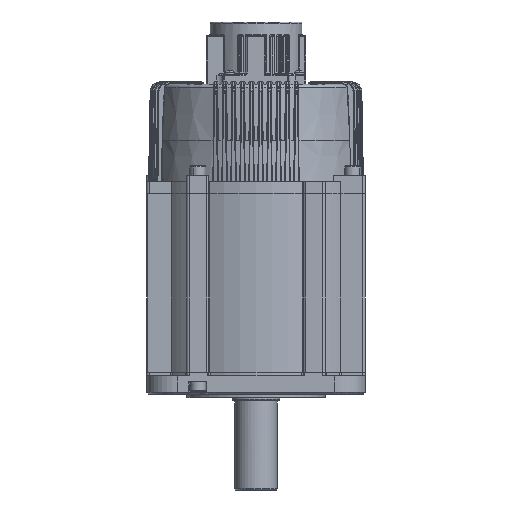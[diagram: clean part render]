
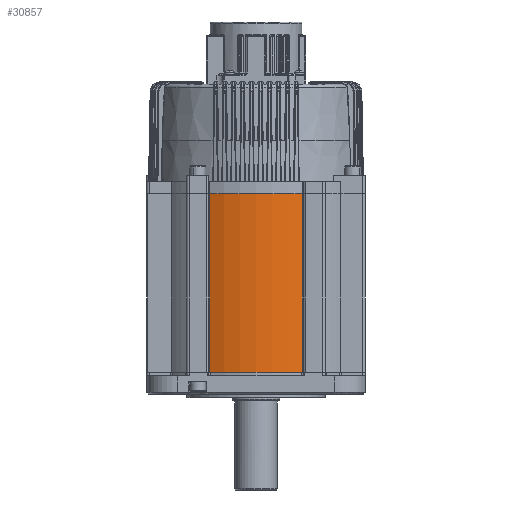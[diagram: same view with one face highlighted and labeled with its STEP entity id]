
A CAD part, front view. The second image highlights one B-rep face of the part: STEP entity #30857.
In plain terms, the highlighted cylindrical face has radius 90 mm (diameter 180 mm), a partial arc.
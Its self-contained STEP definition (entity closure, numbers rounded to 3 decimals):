
#3775 = LINE ( 'NONE', #11864, #100350 ) ;
#5246 = CIRCLE ( 'NONE', #80627, 90. ) ;
#7867 = CARTESIAN_POINT ( 'NONE',  ( 38.287, -81.45, 0. ) ) ;
#8806 = ORIENTED_EDGE ( 'NONE', *, *, #57916, .T. ) ;
#10911 = LINE ( 'NONE', #42172, #125305 ) ;
#11864 = CARTESIAN_POINT ( 'NONE',  ( -38.287, -81.45, 147. ) ) ;
#12716 = CARTESIAN_POINT ( 'NONE',  ( 0., 0., 147. ) ) ;
#14146 = ORIENTED_EDGE ( 'NONE', *, *, #89561, .F. ) ;
#30857 = ADVANCED_FACE ( 'NONE', ( #109629 ), #40964, .T. ) ;
#32091 = CARTESIAN_POINT ( 'NONE',  ( -38.287, -81.45, 0. ) ) ;
#40964 = CYLINDRICAL_SURFACE ( 'NONE', #71153, 90. ) ;
#42172 = CARTESIAN_POINT ( 'NONE',  ( 38.287, -81.45, 147. ) ) ;
#44201 = AXIS2_PLACEMENT_3D ( 'NONE', #81807, #51297, #133462 ) ;
#49521 = VERTEX_POINT ( 'NONE', #7867 ) ;
#51297 = DIRECTION ( 'NONE',  ( 0., 0., -1. ) ) ;
#51360 = CIRCLE ( 'NONE', #44201, 90. ) ;
#54657 = ORIENTED_EDGE ( 'NONE', *, *, #69906, .F. ) ;
#57863 = CARTESIAN_POINT ( 'NONE',  ( -38.287, -81.45, 147. ) ) ;
#57916 = EDGE_CURVE ( 'NONE', #75102, #122556, #3775, .T. ) ;
#63583 = DIRECTION ( 'NONE',  ( 0., 0., -1. ) ) ;
#69906 = EDGE_CURVE ( 'NONE', #75102, #126710, #5246, .T. ) ;
#71153 = AXIS2_PLACEMENT_3D ( 'NONE', #113555, #81487, #123570 ) ;
#75102 = VERTEX_POINT ( 'NONE', #57863 ) ;
#80627 = AXIS2_PLACEMENT_3D ( 'NONE', #12716, #106350, #116858 ) ;
#81487 = DIRECTION ( 'NONE',  ( 0., 0., -1. ) ) ;
#81807 = CARTESIAN_POINT ( 'NONE',  ( 0., 0., 0. ) ) ;
#85699 = CARTESIAN_POINT ( 'NONE',  ( 38.287, -81.45, 147. ) ) ;
#85940 = EDGE_LOOP ( 'NONE', ( #8806, #14146, #92312, #54657 ) ) ;
#89561 = EDGE_CURVE ( 'NONE', #49521, #122556, #51360, .T. ) ;
#92312 = ORIENTED_EDGE ( 'NONE', *, *, #115444, .F. ) ;
#100350 = VECTOR ( 'NONE', #107293, 1000. ) ;
#106350 = DIRECTION ( 'NONE',  ( 0., 0., 1. ) ) ;
#107293 = DIRECTION ( 'NONE',  ( 0., 0., -1. ) ) ;
#109629 = FACE_OUTER_BOUND ( 'NONE', #85940, .T. ) ;
#113555 = CARTESIAN_POINT ( 'NONE',  ( 0., 0., 147. ) ) ;
#115444 = EDGE_CURVE ( 'NONE', #126710, #49521, #10911, .T. ) ;
#116858 = DIRECTION ( 'NONE',  ( 1., 0., 0. ) ) ;
#122556 = VERTEX_POINT ( 'NONE', #32091 ) ;
#123570 = DIRECTION ( 'NONE',  ( -1., 0., 0. ) ) ;
#125305 = VECTOR ( 'NONE', #63583, 1000. ) ;
#126710 = VERTEX_POINT ( 'NONE', #85699 ) ;
#133462 = DIRECTION ( 'NONE',  ( -1., 0., 0. ) ) ;
